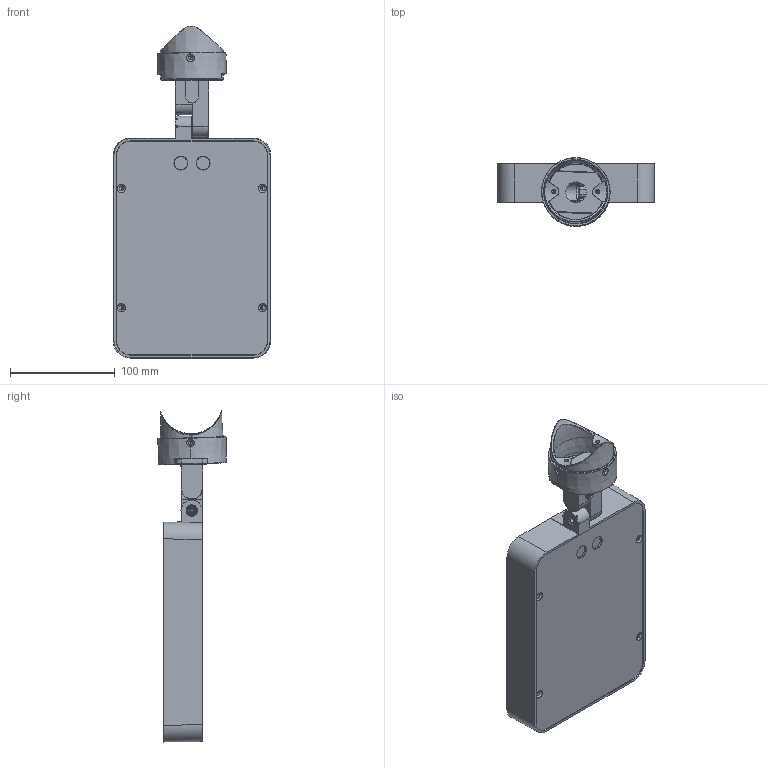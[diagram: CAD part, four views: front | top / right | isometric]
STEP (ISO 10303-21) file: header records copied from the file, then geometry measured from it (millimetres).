
FILE_DESCRIPTION((''),'2;1');
FILE_NAME('TAG210-COB-CITIZEN_SW0004','2025-07-29T09:03:00',('Piccioli'),(''),'CREO PARAMETRIC BY PTC INC, 2025010','CREO PARAMETRIC BY PTC INC, 2025010','');
FILE_SCHEMA(('CONFIG_CONTROL_DESIGN'));
Products named in the file (1): TAG210-COB-CITIZEN_SW0004
Bounding box: 150 x 65.78 x 317.08 mm (x, y, z)
Surface area: 247863 mm2 (no closed solid volume)
Topology: 0 solids, 71 shells, 903 faces, 3815 edges, 2880 vertices
Faces by surface type: plane 236, cylinder 229, cone 190, bspline 132, torus 116
Entity records: 64746 total; most frequent: CARTESIAN_POINT 36277, DIRECTION 5481, ORIENTED_EDGE 5308, EDGE_CURVE 3815, VERTEX_POINT 2880, AXIS2_PLACEMENT_3D 2019, VECTOR 1443, LINE 1443
